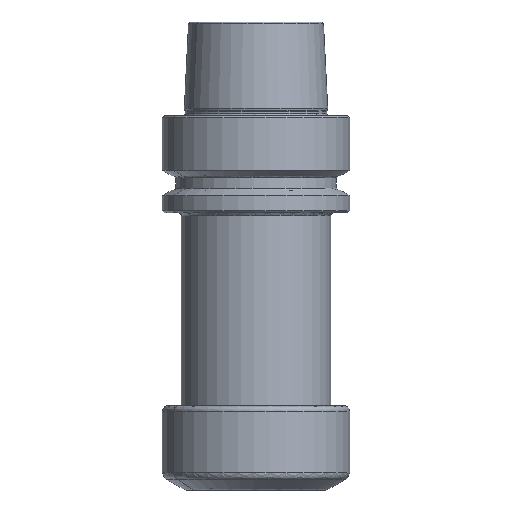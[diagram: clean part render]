
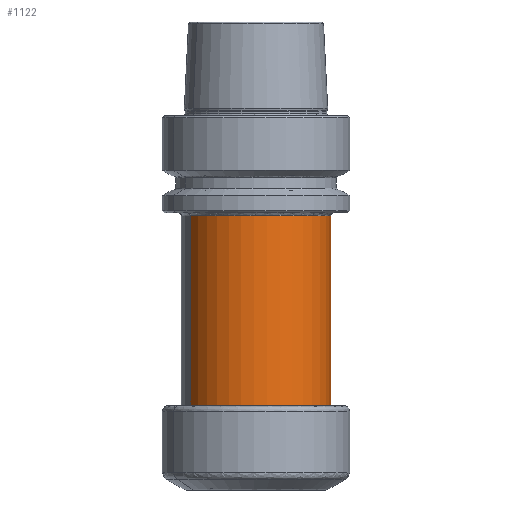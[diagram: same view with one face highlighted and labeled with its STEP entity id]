
A CAD part, left-side view. The second image highlights one B-rep face of the part: STEP entity #1122.
In plain terms, the highlighted face is a revolution surface.
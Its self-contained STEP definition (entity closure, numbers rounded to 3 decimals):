
#1060=AXIS2_PLACEMENT_3D('Circle Axis2P3D',#1058,#1059,$) ;
#1103=AXIS2_PLACEMENT_3D('Circle Axis2P3D',#1101,#1102,$) ;
#1055=CARTESIAN_POINT('Vertex',(-9.589,17.552,-26.8)) ;
#1058=CARTESIAN_POINT('Axis2P3D Location',(0.,0.,-26.8)) ;
#1062=CARTESIAN_POINT('Vertex',(9.589,-17.552,-26.8)) ;
#1081=CARTESIAN_POINT('Control Point',(0.,20.,-78.366)) ;
#1082=CARTESIAN_POINT('Control Point',(0.,20.,-68.053)) ;
#1083=CARTESIAN_POINT('Control Point',(0.,20.,-57.74)) ;
#1084=CARTESIAN_POINT('Control Point',(0.,20.,-47.426)) ;
#1085=CARTESIAN_POINT('Control Point',(0.,20.,-37.113)) ;
#1086=CARTESIAN_POINT('Control Point',(0.,20.,-26.8)) ;
#1087=CARTESIAN_POINT('Axis1P Location',(0.,0.,-37.485)) ;
#1092=CARTESIAN_POINT('Control Point',(-9.589,17.552,-78.366)) ;
#1093=CARTESIAN_POINT('Control Point',(-9.589,17.552,-68.053)) ;
#1094=CARTESIAN_POINT('Control Point',(-9.589,17.552,-57.74)) ;
#1095=CARTESIAN_POINT('Control Point',(-9.589,17.552,-47.426)) ;
#1096=CARTESIAN_POINT('Control Point',(-9.589,17.552,-37.113)) ;
#1097=CARTESIAN_POINT('Control Point',(-9.589,17.552,-26.8)) ;
#1098=CARTESIAN_POINT('Vertex',(-9.589,17.552,-78.366)) ;
#1101=CARTESIAN_POINT('Axis2P3D Location',(0.,0.,-78.366)) ;
#1105=CARTESIAN_POINT('Vertex',(9.589,-17.552,-78.366)) ;
#1109=CARTESIAN_POINT('Control Point',(9.589,-17.552,-78.366)) ;
#1110=CARTESIAN_POINT('Control Point',(9.589,-17.552,-68.053)) ;
#1111=CARTESIAN_POINT('Control Point',(9.589,-17.552,-57.74)) ;
#1112=CARTESIAN_POINT('Control Point',(9.589,-17.552,-47.426)) ;
#1113=CARTESIAN_POINT('Control Point',(9.589,-17.552,-37.113)) ;
#1114=CARTESIAN_POINT('Control Point',(9.589,-17.552,-26.8)) ;
#1059=DIRECTION('Axis2P3D Direction',(0.,0.,1.)) ;
#1088=DIRECTION('Axis1P Direction',(0.,0.,1.)) ;
#1102=DIRECTION('Axis2P3D Direction',(0.,0.,1.)) ;
#1089=AXIS1_PLACEMENT('Revolution Surface Axis1P',#1087,#1088) ;
#1117=ORIENTED_EDGE('',*,*,#1064,.F.) ;
#1118=ORIENTED_EDGE('',*,*,#1100,.T.) ;
#1119=ORIENTED_EDGE('',*,*,#1107,.T.) ;
#1120=ORIENTED_EDGE('',*,*,#1115,.F.) ;
#1122=ADVANCED_FACE('NOCUT',(#1121),#1090,.T.) ;
#1080=B_SPLINE_CURVE_WITH_KNOTS('',5,(#1081,#1082,#1083,#1084,#1085,#1086),.UNSPECIFIED.,.F.,.U.,(6,6),(137.889,189.455),.UNSPECIFIED.) ;
#1091=B_SPLINE_CURVE_WITH_KNOTS('',5,(#1092,#1093,#1094,#1095,#1096,#1097),.UNSPECIFIED.,.F.,.U.,(6,6),(137.889,189.455),.UNSPECIFIED.) ;
#1108=B_SPLINE_CURVE_WITH_KNOTS('',5,(#1109,#1110,#1111,#1112,#1113,#1114),.UNSPECIFIED.,.F.,.U.,(6,6),(137.889,189.455),.UNSPECIFIED.) ;
#1061=CIRCLE('generated circle',#1060,20.) ;
#1104=CIRCLE('generated circle',#1103,20.) ;
#1064=EDGE_CURVE('',#1056,#1063,#1061,.T.) ;
#1100=EDGE_CURVE('',#1056,#1099,#1091,.F.) ;
#1107=EDGE_CURVE('',#1099,#1106,#1104,.T.) ;
#1115=EDGE_CURVE('',#1063,#1106,#1108,.F.) ;
#1116=EDGE_LOOP('',(#1117,#1118,#1119,#1120)) ;
#1121=FACE_OUTER_BOUND('',#1116,.T.) ;
#1090=SURFACE_OF_REVOLUTION('Surface of Revolution',#1080,#1089) ;
#1056=VERTEX_POINT('',#1055) ;
#1063=VERTEX_POINT('',#1062) ;
#1099=VERTEX_POINT('',#1098) ;
#1106=VERTEX_POINT('',#1105) ;
